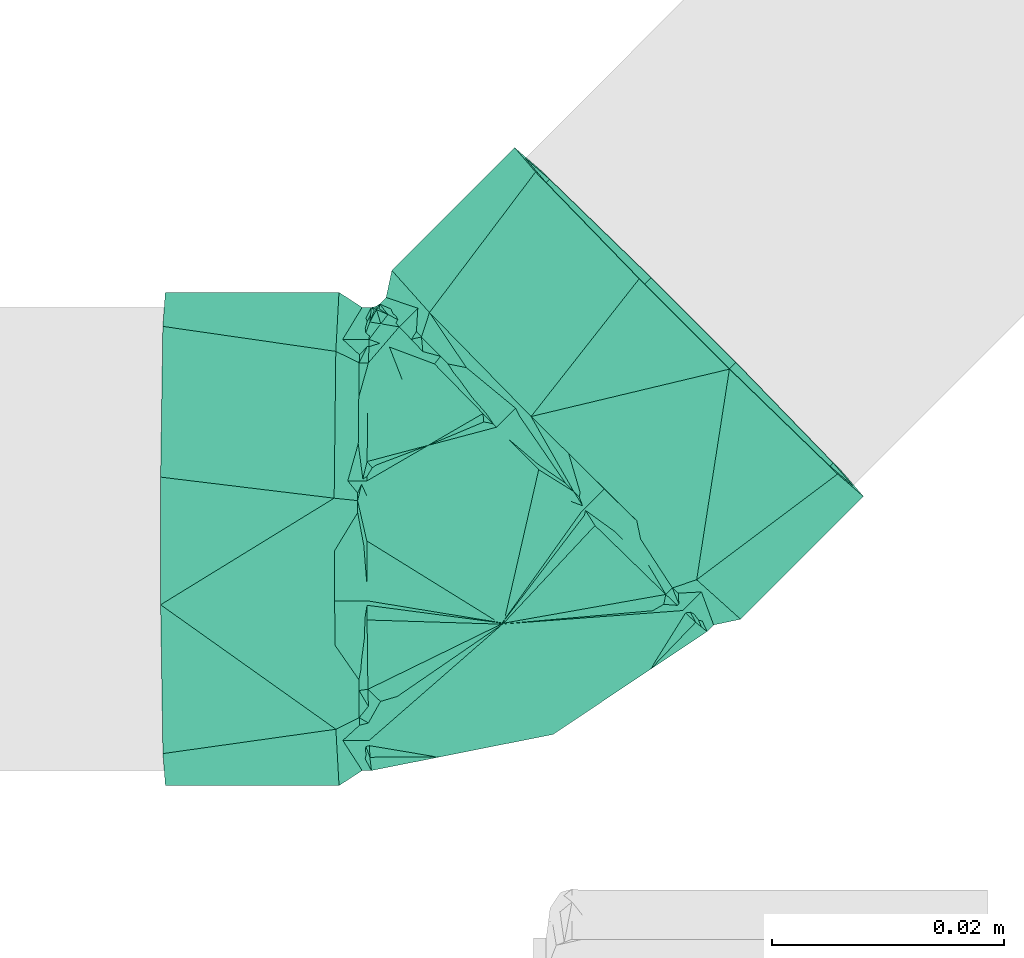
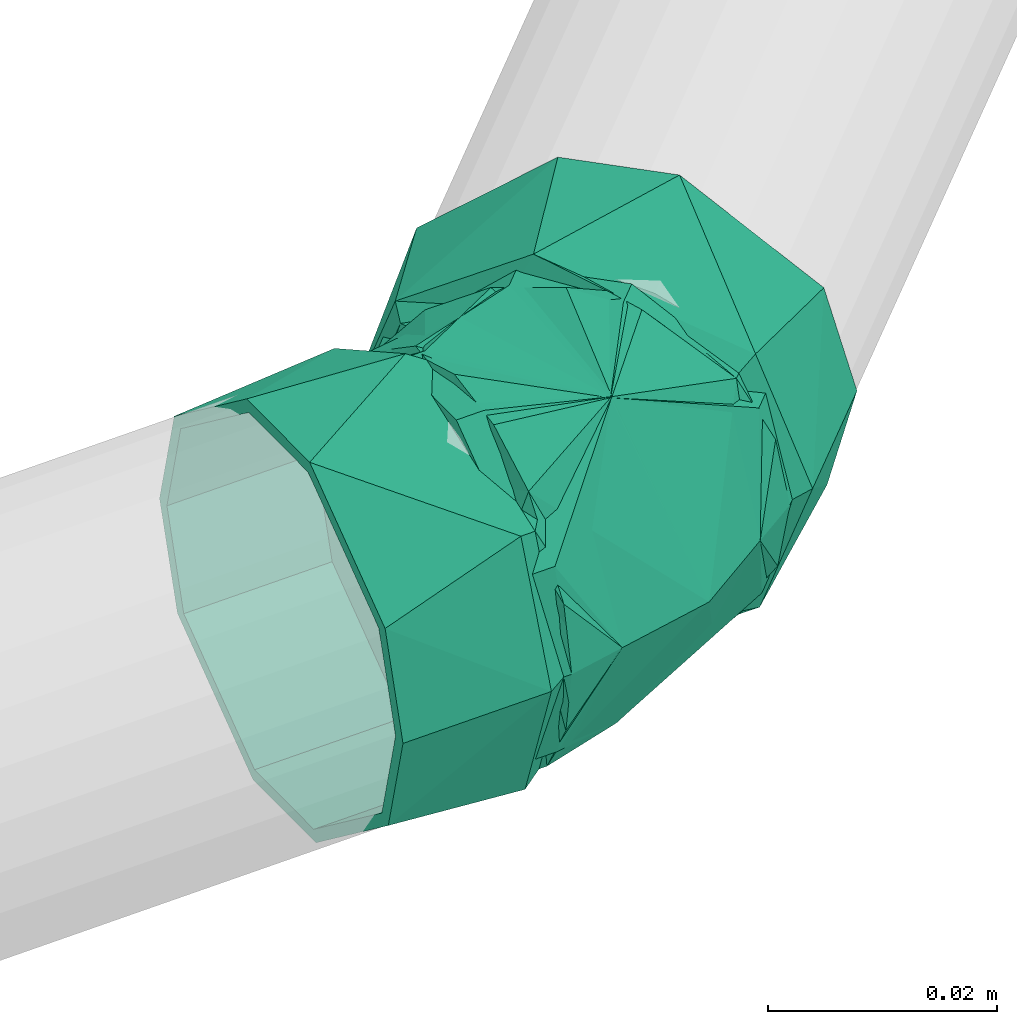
# One storey, part 327 of 589: 1 flow fitting.
"""IFC2X3 building model written with IfcOpenShell, lengths in millimetres."""

from ifc_helpers import new_model, entity, si_unit, converted_unit, derived_unit, direction, frame, origin, place, context, subcontext, project, spatial, faceted_brep, source, transform, mapped, material, type_object, type_shapes, element, save


model = new_model("IFC2X3")

# Units and contexts
model_context = context("Model", 3, precision=0.01, world=origin(), true_north=direction((6.123031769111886e-17, 1.0)))
body_context = subcontext(model_context, "Body", "Model", "MODEL_VIEW")
ifc_project = project(units=[si_unit("LENGTHUNIT", "METRE", prefix="MILLI"), si_unit("AREAUNIT", "SQUARE_METRE"), si_unit("VOLUMEUNIT", "CUBIC_METRE"), converted_unit("PLANEANGLEUNIT", "DEGREE", entity("IfcRatioMeasure", 0.017453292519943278), si_unit("PLANEANGLEUNIT", "RADIAN"), dimensions=[0, 0, 0, 0, 0, 0, 0]), si_unit("MASSUNIT", "GRAM", prefix="KILO"), derived_unit("MASSDENSITYUNIT", [(si_unit("MASSUNIT", "GRAM", prefix="KILO"), 1), (si_unit("LENGTHUNIT", "METRE"), -3)]), derived_unit("IONCONCENTRATIONUNIT", [(si_unit("MASSUNIT", "GRAM", prefix="KILO"), 1), (si_unit("LENGTHUNIT", "METRE"), -3)]), derived_unit("MOMENTOFINERTIAUNIT", [(si_unit("LENGTHUNIT", "METRE"), 4)]), si_unit("TIMEUNIT", "SECOND"), si_unit("FREQUENCYUNIT", "HERTZ"), si_unit("THERMODYNAMICTEMPERATUREUNIT", "DEGREE_CELSIUS"), derived_unit("THERMALTRANSMITTANCEUNIT", [(si_unit("MASSUNIT", "GRAM", prefix="KILO"), 1), (si_unit("THERMODYNAMICTEMPERATUREUNIT", "KELVIN"), -1), (si_unit("TIMEUNIT", "SECOND"), -3)]), derived_unit("THERMALCONDUCTANCEUNIT", [(si_unit("MASSUNIT", "GRAM", prefix="KILO"), 1), (si_unit("THERMODYNAMICTEMPERATUREUNIT", "KELVIN"), -1), (si_unit("TIMEUNIT", "SECOND"), -3), (si_unit("LENGTHUNIT", "METRE"), 1)]), derived_unit("VOLUMETRICFLOWRATEUNIT", [(si_unit("LENGTHUNIT", "METRE"), 3), (si_unit("TIMEUNIT", "SECOND"), -1)]), derived_unit("MASSFLOWRATEUNIT", [(si_unit("MASSUNIT", "GRAM", prefix="KILO"), 1), (si_unit("TIMEUNIT", "SECOND"), -1)]), derived_unit("ROTATIONALFREQUENCYUNIT", [(si_unit("TIMEUNIT", "SECOND"), -1)]), si_unit("ELECTRICCURRENTUNIT", "AMPERE"), si_unit("ELECTRICVOLTAGEUNIT", "VOLT"), si_unit("POWERUNIT", "WATT"), si_unit("FORCEUNIT", "NEWTON", prefix="KILO"), si_unit("ILLUMINANCEUNIT", "LUX"), si_unit("LUMINOUSFLUXUNIT", "LUMEN"), si_unit("LUMINOUSINTENSITYUNIT", "CANDELA"), derived_unit("USERDEFINED", [(si_unit("MASSUNIT", "GRAM", prefix="KILO"), -1), (si_unit("LENGTHUNIT", "METRE"), -2), (si_unit("TIMEUNIT", "SECOND"), 3), (si_unit("LUMINOUSFLUXUNIT", "LUMEN"), 1)]), derived_unit("USERDEFINED", [(si_unit("MASSUNIT", "GRAM", prefix="KILO"), 1), (si_unit("TIMEUNIT", "SECOND"), -3), (si_unit("LENGTHUNIT", "METRE"), 3), (si_unit("ELECTRICCURRENTUNIT", "AMPERE"), -2)]), derived_unit("SOUNDPOWERUNIT", [(si_unit("MASSUNIT", "GRAM", prefix="KILO"), 1), (si_unit("TIMEUNIT", "SECOND"), -3), (si_unit("LENGTHUNIT", "METRE"), 2)]), derived_unit("SOUNDPRESSUREUNIT", [(si_unit("MASSUNIT", "GRAM", prefix="KILO"), 1), (si_unit("LENGTHUNIT", "METRE"), -1), (si_unit("TIMEUNIT", "SECOND"), -2)]), derived_unit("LINEARVELOCITYUNIT", [(si_unit("LENGTHUNIT", "METRE"), 1), (si_unit("TIMEUNIT", "SECOND"), -1)]), si_unit("PRESSUREUNIT", "PASCAL"), derived_unit("USERDEFINED", [(si_unit("MASSUNIT", "GRAM", prefix="KILO"), 1), (si_unit("LENGTHUNIT", "METRE"), -2), (si_unit("TIMEUNIT", "SECOND"), -2)]), derived_unit("LINEARFORCEUNIT", [(si_unit("MASSUNIT", "GRAM", prefix="KILO"), 1), (si_unit("TIMEUNIT", "SECOND"), -2)]), derived_unit("PLANARFORCEUNIT", [(si_unit("MASSUNIT", "GRAM", prefix="KILO"), 1), (si_unit("LENGTHUNIT", "METRE"), -1), (si_unit("TIMEUNIT", "SECOND"), -2)]), derived_unit("SPECIFICHEATCAPACITYUNIT", [(si_unit("THERMODYNAMICTEMPERATUREUNIT", "KELVIN"), -1), (si_unit("LENGTHUNIT", "METRE"), 2), (si_unit("TIMEUNIT", "SECOND"), -2)]), derived_unit("HEATINGVALUEUNIT", [(si_unit("LENGTHUNIT", "METRE"), 2), (si_unit("TIMEUNIT", "SECOND"), -2)]), derived_unit("VAPORPERMEABILITYUNIT", [(si_unit("LENGTHUNIT", "METRE"), -1), (si_unit("TIMEUNIT", "SECOND"), 1)]), derived_unit("DYNAMICVISCOSITYUNIT", [(si_unit("MASSUNIT", "GRAM", prefix="KILO"), 1), (si_unit("TIMEUNIT", "SECOND"), -1), (si_unit("LENGTHUNIT", "METRE"), -1)]), derived_unit("THERMALEXPANSIONCOEFFICIENTUNIT", [(si_unit("THERMODYNAMICTEMPERATUREUNIT", "KELVIN"), -1)]), derived_unit("MODULUSOFELASTICITYUNIT", [(si_unit("MASSUNIT", "GRAM", prefix="KILO"), 1), (si_unit("LENGTHUNIT", "METRE"), -1), (si_unit("TIMEUNIT", "SECOND"), -2)]), derived_unit("ISOTHERMALMOISTURECAPACITYUNIT", [(si_unit("LENGTHUNIT", "METRE"), 3), (si_unit("MASSUNIT", "GRAM", prefix="KILO"), -1)]), derived_unit("MOISTUREDIFFUSIVITYUNIT", [(si_unit("TIMEUNIT", "SECOND"), -1), (si_unit("LENGTHUNIT", "METRE"), 2)])], contexts=[model_context])

# Site, building, storey
site_placement = place(None, origin())
site = spatial("IfcSite", under=ifc_project, at=site_placement, Name="Default", CompositionType="ELEMENT")
building_placement = place(site_placement, origin())
building = spatial("IfcBuilding", under=site, at=building_placement, CompositionType="ELEMENT")
storey_placement = place(building_placement, frame((0.0, 0.0, 100.0)))
storey = spatial("IfcBuildingStorey", under=building, at=storey_placement, Name="TÉRREO", CompositionType="ELEMENT", Elevation=100.0)

# Flow fitting
ifc_material = material(Name="PVC Série Normal")
pipe_fitting_type = type_object("IfcPipeFittingType", Name="PVC Esgoto_Joelho 45_90_Rodrigo MEP:a. Série Normal", PredefinedType="NOTDEFINED", material=ifc_material)
shared_shape = source(origin(), body_context, "Body", "Brep", [
    faceted_brep([(20.291797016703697, -7.993282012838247, 0.0), (18.397234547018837, -6.098470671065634, 10.0), (9.810603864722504, 2.489287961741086, 19.318516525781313), (2.4905765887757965, 9.810276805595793, 19.318516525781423), (-6.0960540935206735, 18.39803543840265, 10.0), (-7.990616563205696, 20.29284678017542, 0.0), (-6.0960540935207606, 18.398035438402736, -10.0), (2.49057658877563, 9.81027680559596, -19.31851652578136), (9.810603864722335, 2.4892879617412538, -19.318516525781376), (18.397234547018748, -6.098470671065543, -10.0), (-6.010587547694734, 22.272615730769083, 0.0), (-4.116025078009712, 20.377804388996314, 10.0), (4.470605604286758, 11.790045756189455, 19.318516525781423), (11.790632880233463, 4.46905691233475, 19.318516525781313), (20.3772635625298, -4.118701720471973, 10.0), (22.271826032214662, -6.013513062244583, 0.0), (20.37726356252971, -4.11870172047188, -10.0), (11.790632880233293, 4.469056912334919, -19.318516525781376), (4.4706056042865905, 11.790045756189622, -19.31851652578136), (-4.116025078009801, 20.3778043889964, -10.0)], [[[0, 1, 2, 3, 4, 5, 6, 7, 8, 9]], [[10, 11, 12, 13, 14, 15, 16, 17, 18, 19]], [[0, 15, 14, 1]], [[1, 14, 13, 2]], [[13, 12, 3, 2]], [[3, 12, 11, 4]], [[4, 11, 10, 5]], [[5, 10, 19, 6]], [[6, 19, 18, 7]], [[18, 17, 8, 7]], [[8, 17, 16, 9]], [[9, 16, 15, 0]]]),
    faceted_brep([(-11.497676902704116, -17.320508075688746, -10.0), (-11.497676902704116, -20.0, 0.0), (-11.497676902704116, -17.320508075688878, 10.0), (-11.497676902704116, -5.176380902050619, 19.318516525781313), (-11.497676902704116, 5.1763809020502, 19.318516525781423), (-11.497676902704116, 17.320508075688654, 10.0), (-11.497676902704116, 20.0, 0.0), (-11.497676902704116, 17.320508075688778, -10.0), (-11.497676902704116, 5.17638090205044, -19.31851652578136), (-11.497676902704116, -5.176380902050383, -19.318516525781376), (-8.697676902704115, 5.17638090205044, -19.31851652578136), (-8.697676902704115, 17.320508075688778, -10.0), (-8.697676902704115, 20.0, 0.0), (-8.697676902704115, 17.320508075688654, 10.0), (-8.697676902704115, 5.1763809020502, 19.318516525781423), (-8.697676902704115, -5.176380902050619, 19.318516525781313), (-8.697676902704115, -17.320508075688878, 10.0), (-8.697676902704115, -20.0, 0.0), (-8.697676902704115, -17.320508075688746, -10.0), (-8.697676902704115, -5.176380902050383, -19.318516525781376)], [[[0, 1, 2, 3, 4, 5, 6, 7, 8, 9]], [[10, 11, 12, 13, 14, 15, 16, 17, 18, 19]], [[1, 17, 16, 2]], [[2, 16, 15, 3]], [[15, 14, 4, 3]], [[4, 14, 13, 5]], [[5, 13, 12, 6]], [[6, 12, 11, 7]], [[7, 11, 10, 8]], [[10, 19, 9, 8]], [[9, 19, 18, 0]], [[0, 18, 17, 1]]]),
    faceted_brep([(-26.49767690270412, -5.512845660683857, -20.574220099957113), (-26.49767690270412, -5.176380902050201, -19.318516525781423), (-26.49767690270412, 5.176380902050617, -19.318516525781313), (-26.49767690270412, -18.44634110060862, -10.649999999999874), (-26.49767690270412, 5.512845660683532, -20.574220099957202), (-26.49767690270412, -17.320508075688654, -10.0), (-26.49767690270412, -20.0, 0.0), (-26.49767690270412, -21.3, 0.0), (-26.49767690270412, -17.32050807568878, 10.0), (-26.49767690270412, -18.446341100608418, 10.65000000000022), (-26.49767690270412, -5.176380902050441, 19.31851652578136), (-26.49767690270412, -5.512845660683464, 20.574220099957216), (-26.49767690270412, 5.176380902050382, 19.318516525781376), (-26.49767690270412, 5.512845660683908, 20.5742200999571), (-26.49767690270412, 17.320508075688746, 10.0), (-26.49767690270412, 18.446341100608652, 10.649999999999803), (-26.49767690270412, 21.3, 0.0), (-26.49767690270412, 20.0, 0.0), (-26.49767690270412, 18.44634110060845, -10.650000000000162), (-26.49767690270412, 17.320508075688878, -10.0), (-11.497676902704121, 17.320508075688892, -10.0), (-11.497676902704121, 20.0, 0.0), (-11.497676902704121, 5.17638090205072, -19.318516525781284), (-11.497676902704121, -5.176380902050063, -19.31851652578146), (-11.497676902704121, -17.320508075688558, -10.0), (-11.497676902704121, -20.0, 0.0), (-11.497676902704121, -17.320508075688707, 10.0), (-11.497676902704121, -5.176380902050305, 19.318516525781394), (-11.497676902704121, 5.176380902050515, 19.318516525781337), (-11.497676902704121, 17.320508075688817, 10.0), (-11.497676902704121, 21.3, 0.0), (-11.497676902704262, 16.315983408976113, 13.692285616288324), (-11.497676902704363, 3.696367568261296, 20.976817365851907), (-11.497676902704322, -16.31941754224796, 13.688192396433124), (-11.497676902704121, -21.3, 0.0), (-11.497676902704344, -6.311524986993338, 17.3325048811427), (-11.49767690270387, -16.319417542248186, -13.688192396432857), (-11.497676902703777, -3.7016293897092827, -20.975889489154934), (-11.497676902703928, 16.315983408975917, -13.692285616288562), (-11.497676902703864, 6.307177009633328, -17.334087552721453), (-9.497676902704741, -3.470767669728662, -19.69654212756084), (-9.49767690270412, 20.0, 0.0), (-9.497676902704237, 18.830849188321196, -3.2131907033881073), (-9.497676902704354, 17.66169837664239, -6.426381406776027), (-9.497676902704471, 16.4925475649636, -9.639572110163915), (-9.497676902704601, 15.323396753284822, -12.852762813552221), (-9.497676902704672, 5.9263145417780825, -16.27465247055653), (-9.497676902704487, -15.320172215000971, -12.856606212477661), (-9.49767690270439, -16.490129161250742, -9.642454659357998), (-9.497676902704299, -17.660086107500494, -6.428303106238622), (-9.49767690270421, -18.830043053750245, -3.214151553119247), (-9.497676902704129, -20.0, 0.0), (-9.497676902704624, 10.624855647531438, -14.563707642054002), (-9.497676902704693, 1.2277734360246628, -17.98559729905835), (-9.497676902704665, -6.433118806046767, -17.98655814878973), (-9.497676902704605, -9.395469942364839, -16.276574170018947), (-9.49767690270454, -12.357821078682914, -14.566590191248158), (-9.497676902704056, -18.830043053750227, 3.2141515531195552), (-9.497676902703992, -17.660086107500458, 6.428303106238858), (-9.497676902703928, -16.490129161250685, 9.64245465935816), (-9.497676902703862, -15.3201722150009, 12.856606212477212), (-9.497676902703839, -12.970687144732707, 13.711489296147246), (-9.497676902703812, -10.621202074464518, 14.566372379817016), (-9.497676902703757, -5.922231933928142, 16.27613854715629), (-9.497676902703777, 15.323396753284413, 12.852762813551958), (-9.497676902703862, 16.49254756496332, 9.63957211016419), (-9.49767690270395, 17.661698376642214, 6.426381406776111), (-9.497676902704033, 18.830849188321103, 3.213190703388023), (-9.497676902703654, 3.47570834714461, 19.695670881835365), (-9.49767690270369, 6.43763044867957, 17.984943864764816), (-9.497676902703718, 9.399552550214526, 16.274216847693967), (-9.497676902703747, 12.361474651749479, 14.563489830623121), (-9.497676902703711, -1.2232617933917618, 17.985904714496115), (-8.697676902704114, 17.057389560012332, 9.848048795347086), (-8.697676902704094, 6.840479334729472, 18.793824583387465), (-8.697676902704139, -9.848049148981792, 17.057385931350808), (-8.697676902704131, -3.420183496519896, 19.396932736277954), (-8.697676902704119, 0.0, 20.0), (-8.697676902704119, 19.396930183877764, 3.4201905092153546), (-8.697676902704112, 15.320918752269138, 12.855716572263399), (-8.697676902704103, 11.080699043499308, 15.82477057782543), (-8.697676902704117, 18.793860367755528, 6.840381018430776), (-8.697676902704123, -18.793848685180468, 6.840413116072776), (-8.697676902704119, 20.0, 0.0), (-8.697676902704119, -20.0, 0.0), (-8.697676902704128, -15.824789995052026, 11.080659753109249), (-8.697676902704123, -19.156924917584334, 4.781308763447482), (-8.697676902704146, -6.84036699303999, 18.793865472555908), (-8.69767690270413, -14.34026064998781, 13.200783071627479), (-8.697676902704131, -12.855731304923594, 15.320906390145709), (-8.697676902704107, 3.420239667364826, 19.396912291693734), (-8.697676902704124, -17.057361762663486, -9.848091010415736), (-8.697676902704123, -18.793848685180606, -6.840413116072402), (-8.697676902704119, 19.39693018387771, -3.4201905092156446), (-8.697676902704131, -3.420183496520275, -19.396932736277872), (-8.697676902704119, 0.0, -20.0), (-8.69767690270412, -19.396924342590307, -3.4202065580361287), (-8.697676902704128, -15.320874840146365, -12.85576890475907), (-8.697676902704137, -11.080620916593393, -15.824817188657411), (-8.697676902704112, 15.824828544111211, -11.080616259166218), (-8.697676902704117, 18.79386036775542, -6.84038101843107), (-8.697676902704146, -6.840366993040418, -18.79386547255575), (-8.697676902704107, 12.855796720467, -15.320851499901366), (-8.697676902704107, 3.420239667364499, -19.396912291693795), (-8.697676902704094, 6.840479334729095, -18.7938245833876), (-8.697676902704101, 9.848138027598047, -17.05733804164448), (18.39723454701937, -6.098470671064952, -10.0), (9.810603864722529, 2.489287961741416, -19.318516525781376), (2.490576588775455, 9.81027680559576, -19.31851652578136), (-6.0960540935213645, 18.39803543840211, -10.0), (-7.990616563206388, 20.292846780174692, 0.0), (-6.096054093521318, 18.39803543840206, 10.0), (2.4905765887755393, 9.810276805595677, 19.31851652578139), (9.810603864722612, 2.489287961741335, 19.318516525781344), (18.39723454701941, -6.098470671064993, 10.0), (20.29179701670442, -7.993282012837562, 0.0), (-2.9119619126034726, -18.849248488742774, 0.0), (15.386759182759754, -11.270374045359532, 0.0), (2.8666055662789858, -7.210896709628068, 17.605576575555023), (6.991099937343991, -16.87957604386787, 0.0), (-8.315023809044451, 20.076107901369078, 0.0), (2.8666055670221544, -7.2108967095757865, -17.605576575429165)], [[[0, 1, 2]], [[1, 0, 3]], [[2, 4, 0]], [[3, 5, 1]], [[3, 6, 5]], [[6, 3, 7]], [[8, 6, 7]], [[8, 7, 9]], [[9, 10, 8]], [[9, 11, 10]], [[10, 11, 12]], [[13, 12, 11]], [[13, 14, 12]], [[14, 13, 15]], [[16, 14, 15]], [[17, 14, 16]], [[18, 17, 16]], [[18, 19, 17]], [[19, 18, 4]], [[4, 2, 19]], [[20, 21, 17, 19]], [[22, 20, 19, 2]], [[2, 1, 23, 22]], [[24, 23, 1, 5]], [[25, 24, 5, 6]], [[26, 25, 6, 8]], [[27, 26, 8, 10]], [[10, 12, 28, 27]], [[29, 28, 12, 14]], [[21, 29, 14, 17]], [[16, 15, 30]], [[15, 31, 30]], [[31, 15, 13]], [[31, 13, 32]], [[33, 11, 9]], [[34, 9, 7]], [[11, 33, 35, 32]], [[33, 9, 34]], [[11, 32, 13]], [[7, 3, 34]], [[3, 36, 34]], [[36, 3, 0]], [[36, 0, 37]], [[38, 4, 18]], [[30, 18, 16]], [[4, 38, 39, 37]], [[38, 18, 30]], [[4, 37, 0]], [[28, 29, 21, 20, 22, 23, 24, 25, 26, 27]], [[39, 40, 37]], [[30, 41, 42, 43, 44, 45]], [[30, 45, 38]], [[38, 46, 39]], [[36, 47, 48, 49, 50, 51]], [[38, 45, 52, 46]], [[36, 37, 47]], [[34, 36, 51]], [[39, 46, 53, 40]], [[37, 40, 54, 55, 56, 47]], [[33, 51, 57, 58, 59, 60]], [[33, 34, 51]], [[60, 35, 33]], [[35, 60, 61, 62, 63]], [[63, 32, 35]], [[30, 64, 65, 66, 67, 41]], [[31, 68, 69, 70, 71, 64]], [[31, 64, 30]], [[32, 63, 72, 68]], [[68, 31, 32]], [[64, 73, 65]], [[74, 70, 69, 68]], [[62, 75, 63]], [[76, 77, 72]], [[78, 67, 66]], [[79, 71, 80]], [[65, 81, 66]], [[64, 79, 73]], [[82, 59, 58]], [[83, 41, 67]], [[84, 57, 51]], [[60, 59, 85]], [[83, 67, 78]], [[86, 82, 58]], [[81, 65, 73]], [[63, 87, 76]], [[63, 76, 72]], [[63, 75, 87]], [[82, 85, 59]], [[68, 72, 77]], [[66, 81, 78]], [[61, 88, 89]], [[89, 62, 61]], [[68, 77, 90, 74]], [[84, 86, 57]], [[86, 58, 57]], [[89, 75, 62]], [[61, 60, 88]], [[60, 85, 88]], [[74, 80, 70]], [[71, 79, 64]], [[71, 70, 80]], [[49, 91, 92]], [[93, 43, 42]], [[54, 40, 94]], [[40, 53, 95]], [[51, 96, 84]], [[97, 56, 98]], [[48, 97, 91]], [[91, 49, 48]], [[99, 44, 100]], [[101, 55, 54]], [[96, 51, 50]], [[83, 42, 41]], [[45, 99, 102]], [[49, 92, 50]], [[42, 83, 93]], [[48, 47, 97]], [[53, 103, 95]], [[104, 103, 46]], [[52, 105, 46]], [[44, 99, 45]], [[46, 103, 53]], [[50, 92, 96]], [[105, 52, 102]], [[44, 43, 100]], [[40, 95, 94]], [[100, 43, 93]], [[102, 52, 45]], [[105, 104, 46]], [[101, 98, 55]], [[54, 94, 101]], [[56, 97, 47]], [[56, 55, 98]], [[106, 107, 108, 109, 110, 111, 112, 113, 114, 115]], [[116, 89, 88, 85, 82]], [[117, 118, 119]], [[118, 89, 119]], [[118, 77, 76, 87]], [[116, 82, 86, 84]], [[118, 74, 90, 77]], [[111, 81, 73, 79]], [[112, 79, 80, 74]], [[118, 87, 75, 89]], [[89, 116, 119]], [[74, 118, 112]], [[118, 114, 113]], [[118, 117, 114]], [[120, 83, 78, 81]], [[81, 110, 120]], [[110, 81, 111]], [[117, 115, 114]], [[112, 111, 79]], [[112, 118, 113]], [[104, 108, 121]], [[116, 92, 91, 97]], [[109, 102, 99, 100]], [[106, 121, 107]], [[97, 121, 119]], [[108, 104, 105, 102]], [[116, 84, 96, 92]], [[97, 119, 116]], [[121, 97, 98, 101]], [[121, 95, 103, 104]], [[110, 100, 120]], [[109, 100, 110]], [[108, 102, 109]], [[121, 101, 94, 95]], [[108, 107, 121]], [[119, 121, 117]], [[106, 117, 121]], [[106, 115, 117]], [[120, 100, 93, 83]]]),
    faceted_brep([(-4.116025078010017, 20.37780438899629, -10.0), (-6.010587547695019, 22.272615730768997, 0.0), (-4.116025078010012, 20.37780438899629, 10.0), (4.470605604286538, 11.790045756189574, 19.318516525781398), (11.790632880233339, 4.469056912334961, 19.318516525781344), (20.37726356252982, -4.11870172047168, 10.0), (22.27182603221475, -6.013513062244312, 0.0), (20.377263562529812, -4.118701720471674, -10.0), (11.79063288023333, 4.469056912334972, -19.318516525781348), (4.470605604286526, 11.790045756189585, -19.318516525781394), (23.191004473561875, -6.932812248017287, 0.0), (20.85751959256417, -7.4276337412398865, 0.0), (20.03085942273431, -6.600864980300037, -3.213190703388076), (19.204199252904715, -5.774096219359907, -6.426381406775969), (18.377539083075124, -4.947327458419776, -9.639572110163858), (17.55087891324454, -4.120558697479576, -12.85276281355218), (3.6679902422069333, 12.592766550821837, -17.332504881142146), (10.744174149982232, 5.51565310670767, -20.976817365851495), (4.262270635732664, 9.169795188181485, -19.696542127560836), (19.667004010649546, -3.408348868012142, -13.69228561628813), (-4.115973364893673, 17.54913976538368, -12.856606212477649), (-3.408193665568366, 19.669879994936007, -13.688192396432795), (2.167709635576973, 11.264631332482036, -17.986558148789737), (0.07314863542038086, 13.359467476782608, -16.27657417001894), (-2.021412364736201, 15.45430362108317, -14.566590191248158), (10.906574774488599, 2.5246182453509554, -16.274652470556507), (-4.943203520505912, 18.37647858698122, -9.642454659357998), (-5.7704336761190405, 19.20381740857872, -6.428303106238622), (-6.597663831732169, 20.031156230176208, -3.2141515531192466), (-7.424893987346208, 20.858495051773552, 0.0), (-6.92976598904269, 23.191914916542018, 0.0), (14.22872684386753, -0.7979702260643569, -14.563707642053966), (7.58442270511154, 5.8472067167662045, -17.98559729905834), (-3.408193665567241, 19.669879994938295, 13.688192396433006), (-6.597663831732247, 20.031156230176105, 3.2141515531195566), (-5.770433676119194, 19.20381740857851, 6.428303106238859), (-4.943203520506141, 18.376478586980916, 9.64245465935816), (-4.115973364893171, 17.549139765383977, 12.856606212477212), (12.59017395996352, 3.6694108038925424, 17.334087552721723), (5.513343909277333, 10.747170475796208, 20.975889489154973), (9.173848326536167, 4.257572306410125, 19.695670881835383), (17.55087891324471, -4.120558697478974, 12.852762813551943), (19.66700401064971, -3.4083488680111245, 13.692285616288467), (11.268105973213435, 2.1630395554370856, 17.984943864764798), (13.362363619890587, 0.06850680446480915, 16.274216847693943), (15.456621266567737, -2.0260259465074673, 14.563489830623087), (2.5289374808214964, 10.903356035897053, 16.276138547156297), (18.377539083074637, -4.94732745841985, 9.639572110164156), (19.20419925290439, -5.774096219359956, 6.426381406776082), (20.030859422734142, -6.600864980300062, 3.213190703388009), (-2.4547456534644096, 15.887693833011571, 13.711489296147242), (-0.793517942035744, 14.22624790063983, 14.566372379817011), (5.851392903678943, 7.580464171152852, 17.985904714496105), (14.840003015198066, 22.63388298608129, -20.574220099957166), (15.077903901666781, 22.395950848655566, -19.318516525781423), (22.39793117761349, 15.074962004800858, -19.318516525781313), (5.69524133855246, 31.779845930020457, -10.649999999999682), (22.635832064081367, 14.837029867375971, -20.574220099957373), (6.491273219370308, 30.983709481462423, -10.0), (4.596710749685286, 32.8785208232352, 0.0), (3.677532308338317, 33.797820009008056, 0.0), (6.491273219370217, 30.983709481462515, 10.0), (5.6952413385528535, 31.77984593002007, 10.650000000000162), (15.077903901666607, 22.39595084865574, 19.31851652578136), (14.840003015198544, 22.633882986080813, 20.5742200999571), (22.397931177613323, 15.074962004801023, 19.318516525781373), (22.635832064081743, 14.837029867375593, 20.57422009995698), (30.984561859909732, 6.4872033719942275, 10.0), (31.78059374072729, 5.691066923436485, 10.649999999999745), (33.798302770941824, 3.6730928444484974, 0.0), (32.87912432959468, 4.592392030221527, 0.0), (31.780593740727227, 5.691066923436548, -10.650000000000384), (30.984561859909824, 6.487203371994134, -10.0), (18.211174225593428, -5.912385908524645, 9.848091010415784), (10.98714243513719, 1.3125948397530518, 18.793865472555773), (-0.812637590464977, 13.11392489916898, 17.05733804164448), (3.7322744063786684, 8.568415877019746, 19.396912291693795), (6.15059022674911, 6.149782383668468, 20.0), (19.865386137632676, -7.5668151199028, 3.420206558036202), (16.983373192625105, -4.684423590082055, 12.8557689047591), (13.98525781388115, -1.6859143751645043, 15.824817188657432), (19.438975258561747, -7.1403482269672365, 6.84041311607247), (-7.13780306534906, 19.43992125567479, 6.840381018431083), (20.2917970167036, -7.993282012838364, 0.0), (-7.9906165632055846, 20.29284678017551, 0.0), (-5.03851841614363, 17.34036084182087, 11.080616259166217), (-7.3945144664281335, 19.696666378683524, 4.781309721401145), (1.3139585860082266, 10.987049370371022, 18.79382458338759), (-3.98887609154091, 16.29058063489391, 13.20073387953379), (-2.939233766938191, 15.240800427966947, 15.320851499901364), (8.568866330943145, 3.7311886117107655, 19.39693273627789), (-5.91001342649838, 18.21197033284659, -9.848048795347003), (-7.137803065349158, 19.439921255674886, -6.840381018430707), (19.865386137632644, -7.566815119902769, -3.420206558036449), (3.7322744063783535, 8.568415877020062, -19.396912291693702), (6.150590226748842, 6.1497823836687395, -20.0), (-7.56420981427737, 19.866384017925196, -3.4201905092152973), (-4.682223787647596, 16.984019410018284, -12.85571657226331), (-1.6841326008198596, 13.985534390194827, -15.824770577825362), (17.33967161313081, -5.040768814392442, -11.080659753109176), (19.43897525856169, -7.1403482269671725, -6.840413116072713), (1.3139585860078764, 10.987049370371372, -18.793824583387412), (15.240367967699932, -2.941189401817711, -15.32090639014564), (8.568866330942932, 3.731188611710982, -19.396932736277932), (10.987142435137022, 1.312594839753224, -18.79386547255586), (13.113755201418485, -0.814297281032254, -17.05738593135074), (-8.69767690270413, 5.176380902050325, 19.31851652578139), (-8.697676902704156, 17.320508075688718, 10.0), (-8.697676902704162, 20.0, 0.0), (-8.697676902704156, 17.320508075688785, -10.0), (-8.69767690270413, 5.176380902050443, -19.31851652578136), (-8.697676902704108, -5.176380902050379, -19.318516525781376), (-8.697676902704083, -17.320508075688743, -10.0), (-8.697676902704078, -20.0, 0.0), (-8.697676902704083, -17.32050807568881, 10.0), (-8.697676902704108, -5.176380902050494, 19.318516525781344), (6.991099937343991, -16.87957604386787, 0.0), (3.071408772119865, -7.126073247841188, 17.60557611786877), (-2.9119619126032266, -18.849248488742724, 0.0), (-8.315023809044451, 20.07610790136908, 0.0), (15.386759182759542, -11.270374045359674, 0.0), (3.0714087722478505, -7.126073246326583, -17.60557611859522)], [[[0, 1, 2, 3, 4, 5, 6, 7, 8, 9]], [[10, 11, 12, 13, 14, 15]], [[16, 17, 18]], [[19, 10, 15]], [[16, 20, 21]], [[16, 18, 22, 23, 24, 20]], [[19, 25, 17]], [[21, 20, 26, 27, 28, 29]], [[21, 29, 30]], [[19, 15, 31, 25]], [[17, 25, 32, 18]], [[33, 29, 34, 35, 36, 37]], [[38, 39, 40]], [[33, 30, 29]], [[38, 41, 42]], [[38, 40, 43, 44, 45, 41]], [[33, 46, 39]], [[10, 41, 47, 48, 49, 11]], [[42, 41, 10]], [[33, 37, 50, 51, 46]], [[39, 46, 52, 40]], [[53, 54, 55]], [[54, 53, 56]], [[55, 57, 53]], [[56, 58, 54]], [[56, 59, 58]], [[59, 56, 60]], [[61, 59, 60]], [[61, 60, 62]], [[62, 63, 61]], [[62, 64, 63]], [[63, 64, 65]], [[66, 65, 64]], [[66, 67, 65]], [[67, 66, 68]], [[69, 67, 68]], [[70, 67, 69]], [[71, 70, 69]], [[71, 72, 70]], [[72, 71, 57]], [[57, 55, 72]], [[69, 68, 10]], [[68, 42, 10]], [[42, 68, 66]], [[66, 39, 38, 42]], [[33, 64, 62]], [[30, 62, 60]], [[64, 33, 39]], [[33, 62, 30]], [[64, 39, 66]], [[60, 56, 30]], [[56, 21, 30]], [[21, 56, 53]], [[53, 17, 16, 21]], [[19, 57, 71]], [[10, 71, 69]], [[57, 19, 17]], [[19, 71, 10]], [[57, 17, 53]], [[7, 6, 70, 72]], [[8, 7, 72, 55]], [[55, 54, 9, 8]], [[0, 9, 54, 58]], [[1, 0, 58, 59]], [[2, 1, 59, 61]], [[3, 2, 61, 63]], [[63, 65, 4, 3]], [[5, 4, 65, 67]], [[6, 5, 67, 70]], [[41, 73, 47]], [[74, 44, 43, 40]], [[51, 75, 46]], [[76, 77, 52]], [[78, 49, 48]], [[79, 45, 80]], [[47, 81, 48]], [[41, 79, 73]], [[82, 36, 35]], [[83, 11, 49]], [[84, 34, 29]], [[37, 36, 85]], [[83, 49, 78]], [[86, 82, 35]], [[81, 47, 73]], [[46, 87, 76]], [[46, 76, 52]], [[46, 75, 87]], [[82, 85, 36]], [[40, 52, 77]], [[48, 81, 78]], [[50, 88, 89]], [[89, 51, 50]], [[40, 77, 90, 74]], [[84, 86, 34]], [[86, 35, 34]], [[89, 75, 51]], [[50, 37, 88]], [[37, 85, 88]], [[74, 80, 44]], [[45, 79, 41]], [[45, 44, 80]], [[27, 91, 92]], [[93, 13, 12]], [[22, 18, 94]], [[18, 32, 95]], [[29, 96, 84]], [[97, 24, 98]], [[26, 97, 91]], [[91, 27, 26]], [[99, 14, 100]], [[101, 23, 22]], [[96, 29, 28]], [[83, 12, 11]], [[15, 99, 102]], [[27, 92, 28]], [[12, 83, 93]], [[26, 20, 97]], [[32, 103, 95]], [[104, 103, 25]], [[31, 105, 25]], [[14, 99, 15]], [[25, 103, 32]], [[28, 92, 96]], [[105, 31, 102]], [[14, 13, 100]], [[18, 95, 94]], [[100, 13, 93]], [[102, 31, 15]], [[105, 104, 25]], [[101, 98, 23]], [[22, 94, 101]], [[24, 97, 20]], [[24, 23, 98]], [[106, 107, 108, 109, 110, 111, 112, 113, 114, 115]], [[116, 117, 118]], [[115, 117, 106]], [[118, 117, 114]], [[107, 106, 89]], [[82, 119, 108]], [[108, 107, 82]], [[114, 113, 118]], [[117, 74, 90, 77]], [[79, 117, 116]], [[117, 79, 80, 74]], [[79, 116, 120]], [[117, 77, 76, 87]], [[119, 82, 86, 84]], [[120, 81, 73, 79]], [[107, 89, 88, 85, 82]], [[106, 87, 75, 89]], [[114, 117, 115]], [[117, 87, 106]], [[120, 83, 78, 81]], [[121, 110, 101]], [[109, 108, 92]], [[118, 113, 112]], [[109, 97, 110]], [[121, 118, 112]], [[121, 112, 111]], [[111, 110, 121]], [[92, 108, 119]], [[109, 92, 91, 97]], [[110, 97, 98, 101]], [[121, 104, 105, 102]], [[118, 121, 116]], [[121, 101, 94, 95]], [[102, 116, 121]], [[120, 100, 93, 83]], [[116, 102, 120]], [[120, 102, 99, 100]], [[121, 95, 103, 104]], [[119, 84, 96, 92]]]),
])
type_shapes(pipe_fitting_type, [shared_shape])
flow_fitting_placement = place(storey_placement, frame((241.09213799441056, -7696.610182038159, -241.50439068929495), z_axis=(-0.019995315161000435, -0.00828350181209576, 0.9997657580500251), x_axis=(0.999800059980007, 0.0, 0.019996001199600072)))
element("IfcFlowFitting", 1, at=flow_fitting_placement, inside=storey, type_object=pipe_fitting_type, material=ifc_material, Name="PVC Esgoto_Joelho 45_90_Rodrigo MEP:a. Série Normal", ObjectType="PVC Esgoto_Joelho 45_90_Rodrigo MEP:a. Série Normal", context=body_context, shape_type="MappedRepresentation", body=[
    mapped(shared_shape, transform((0.0, 0.0, 0.0), scale=1.0)),
])

save(model, "model.ifc")
